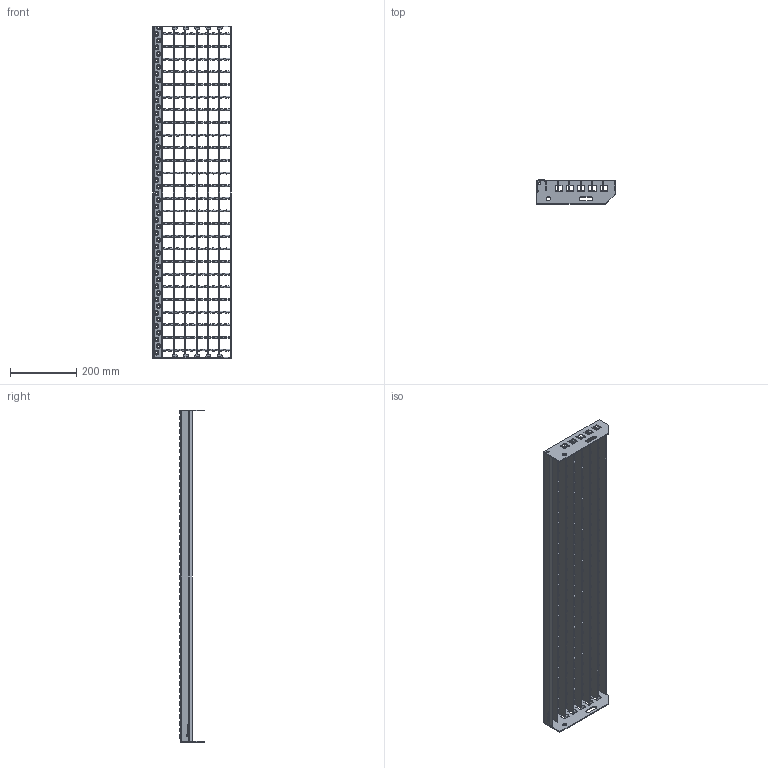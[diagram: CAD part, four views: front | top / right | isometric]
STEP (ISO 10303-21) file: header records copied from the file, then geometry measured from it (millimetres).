
FILE_DESCRIPTION(/* description */ (''),/* implementation_level */ '2;1');
FILE_NAME(/* name */ 'M:\Abteilung\TB\Inventor\Haverkotte\Lager STEP\SP-Stufen\SP 330-34 38-3\SP 330-34 38-3 1000mm x 240mm.stp',/* time_stamp */ '2022-01-24T09:26:04+01:00',/* author */ ('phaverkotte'),/* organization */ (''),/* preprocessor_version */ 'ST-DEVELOPER v18.1',/* originating_system */ 'Autodesk Inventor 2022',/* authorisation */ '');
FILE_SCHEMA (('AUTOMOTIVE_DESIGN { 1 0 10303 214 3 1 1 }'));
Length unit declared in the file: millimetre
Products named in the file (8): Stufe SP; Seitenplatte ausgeklinkt links; Seitenplatte 240 ausgeklinkt extern rechts; Schod nášlap; SP Rošt schodu; Nosny pas; Krouceny drat; Hinteres Flach
Assembly tree (37 placements, depth 3):
  Stufe SP
    Seitenplatte ausgeklinkt links
    Seitenplatte 240 ausgeklinkt extern rechts
    Schod nášlap
    SP Rošt schodu
      Nosny pas  x6
      Krouceny drat  x26
      Hinteres Flach
Bounding box: 236.98 x 72.75 x 1000 mm (x, y, z)
Volume: 931775.5 mm3; surface area: 740966.1 mm2
Topology: 36 solids, 36 shells, 1128 faces, 2959 edges, 1920 vertices
Faces by surface type: plane 536, cylinder 268, cone 150, bspline 124, torus 50
Full cylindrical faces by diameter (mm): 8 x2, 13 x2
Entity records: 26289 total; most frequent: CARTESIAN_POINT 7960, DIRECTION 3809, ORIENTED_EDGE 3638, EDGE_CURVE 1819, AXIS2_PLACEMENT_3D 1333, VERTEX_POINT 1160, LINE 1143, VECTOR 1143
